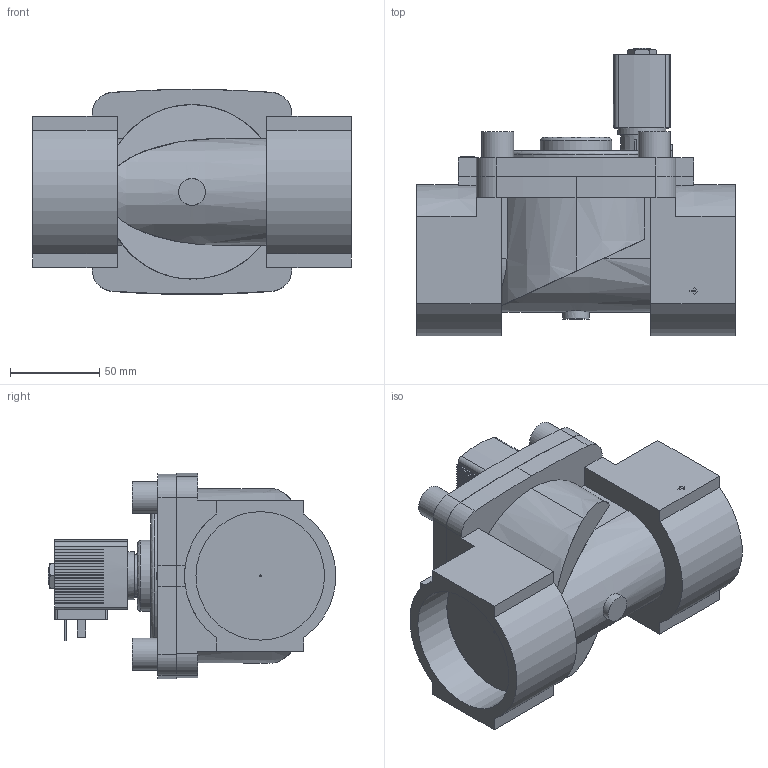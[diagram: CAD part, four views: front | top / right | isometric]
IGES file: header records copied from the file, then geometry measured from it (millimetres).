
Start section: Data from Parasolid IGES Translator 26.0.171, Copyright(c) 2006 Siemens PLM Software. All Rights Reserved.
Global section: file name: 6281-314950-2_2-Way_Solenoid_Valve__Servo-assisted__General_Purpose.igs; native system: By Siemens PLM Incorporated; preprocessor: XPlus GENERIC/IGES 26.0.171; author: Noname; organization: Noname; date: 20240909.105552; units: millimetre
Bounding box: 179 x 161.34 x 115.15 mm (x, y, z)
Surface area: 140509.1 mm2 (no closed solid volume)
Topology: 0 solids, 0 shells, 447 faces, 2516 edges, 2491 vertices
Faces by surface type: extrusion 370, revolution 77
